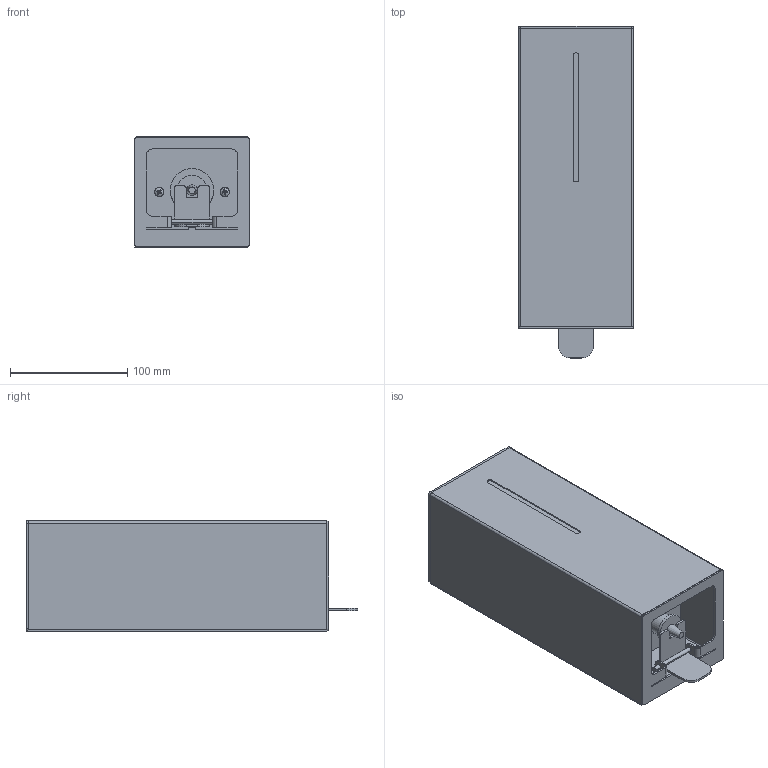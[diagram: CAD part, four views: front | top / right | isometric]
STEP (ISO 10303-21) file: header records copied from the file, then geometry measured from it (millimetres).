
FILE_DESCRIPTION (( 'STEP AP214' ), '1' );
FILE_NAME ('Dozownik wisz¹cy do myd³a ALVIN.STEP', '2025-09-15T10:39:27', ( '' ), ( '' ), 'SwSTEP 2.0', 'SolidWorks 2021', '' );
FILE_SCHEMA (( 'AUTOMOTIVE_DESIGN' ));
Length unit declared in the file: millimetre
Products named in the file (16): 06-005-0258-W-02-03; Dozownik wisz¹cy do myd³a ALVIN; 06-005-0258-W-02-02; 06-005-0258-W-01-01; 06-005-0258-W-01-02; butelka; 06-005-0258-W-02-00; 06-005-0258-W-03-02; 06-005-0258-W-01-00; 06-005-0258-W-03-01; hex thin nut chamfered gradeab_iso_ISO - 4035 - M4 - N; 06-005-0258-W-04-00; 06-005-0258-W-03-00; pan head cross recess screw_iso_ISO 7045 - M4 x 30 - Z - 30N; 06-005-0258-W-02-01; 06-005-0258-W-04-01
Assembly tree (17 placements, depth 3):
  Dozownik wisz¹cy do myd³a ALVIN
    06-005-0258-W-03-00
      06-005-0258-W-03-01
      06-005-0258-W-03-02
    06-005-0258-W-04-00
      06-005-0258-W-04-01
      hex thin nut chamfered gradeab_iso_ISO - 4035 - M4 - N  x2
    pan head cross recess screw_iso_ISO 7045 - M4 x 30 - Z - 30N  x2
    06-005-0258-W-01-00
      06-005-0258-W-01-01
      06-005-0258-W-01-02
    06-005-0258-W-02-00
      06-005-0258-W-02-02
      06-005-0258-W-02-03
      06-005-0258-W-02-01
    butelka
Bounding box: 98 x 283.5 x 94 mm (x, y, z)
Volume: 1377040.6 mm3; surface area: 344771.7 mm2
Topology: 13 solids, 13 shells, 377 faces, 916 edges, 570 vertices
Faces by surface type: plane 183, cylinder 136, cone 46, torus 8, sphere 4
Entity records: 10016 total; most frequent: CARTESIAN_POINT 1746, DIRECTION 1706, ORIENTED_EDGE 1540, EDGE_CURVE 770, AXIS2_PLACEMENT_3D 637, VERTEX_POINT 485, VECTOR 432, LINE 432
